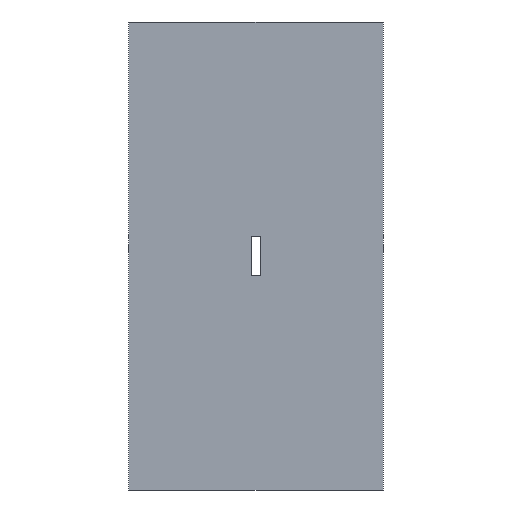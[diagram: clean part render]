
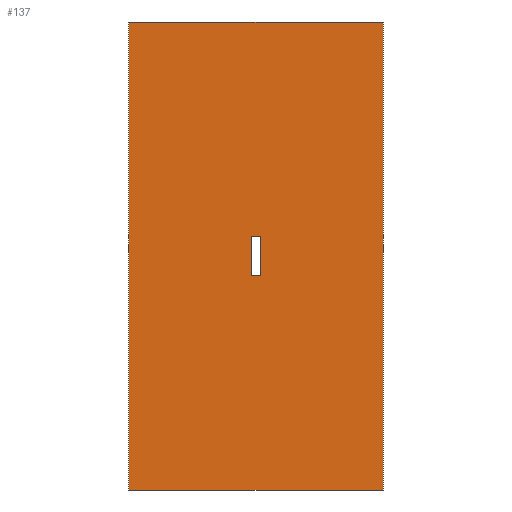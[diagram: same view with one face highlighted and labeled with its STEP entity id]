
A CAD part, front view. The second image highlights one B-rep face of the part: STEP entity #137.
In plain terms, the highlighted planar face has unit normal (0, -1, 0).
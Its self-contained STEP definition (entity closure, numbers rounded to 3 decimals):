
#21 = EDGE_CURVE('',#22,#24,#26,.T.);
#22 = VERTEX_POINT('',#23);
#23 = CARTESIAN_POINT('',(-163.,-6.,0.));
#24 = VERTEX_POINT('',#25);
#25 = CARTESIAN_POINT('',(-163.,-6.,600.));
#26 = SURFACE_CURVE('',#27,(#31,#43),.PCURVE_S1.);
#27 = LINE('',#28,#29);
#28 = CARTESIAN_POINT('',(-163.,-6.,0.));
#29 = VECTOR('',#30,1.);
#30 = DIRECTION('',(0.,0.,1.));
#31 = PCURVE('',#32,#37);
#32 = PLANE('',#33);
#33 = AXIS2_PLACEMENT_3D('',#34,#35,#36);
#34 = CARTESIAN_POINT('',(-163.,-6.,0.));
#35 = DIRECTION('',(1.,0.,0.));
#36 = DIRECTION('',(0.,0.,1.));
#37 = DEFINITIONAL_REPRESENTATION('',(#38),#42);
#38 = LINE('',#39,#40);
#39 = CARTESIAN_POINT('',(0.,0.));
#40 = VECTOR('',#41,1.);
#41 = DIRECTION('',(1.,0.));
#42 = ( GEOMETRIC_REPRESENTATION_CONTEXT(2) 
PARAMETRIC_REPRESENTATION_CONTEXT() REPRESENTATION_CONTEXT('2D SPACE',''
  ) );
#43 = PCURVE('',#44,#49);
#44 = PLANE('',#45);
#45 = AXIS2_PLACEMENT_3D('',#46,#47,#48);
#46 = CARTESIAN_POINT('',(-163.,-6.,0.));
#47 = DIRECTION('',(0.,1.,0.));
#48 = DIRECTION('',(0.,0.,1.));
#49 = DEFINITIONAL_REPRESENTATION('',(#50),#54);
#50 = LINE('',#51,#52);
#51 = CARTESIAN_POINT('',(0.,0.));
#52 = VECTOR('',#53,1.);
#53 = DIRECTION('',(1.,0.));
#54 = ( GEOMETRIC_REPRESENTATION_CONTEXT(2) 
PARAMETRIC_REPRESENTATION_CONTEXT() REPRESENTATION_CONTEXT('2D SPACE',''
  ) );
#72 = PLANE('',#73);
#73 = AXIS2_PLACEMENT_3D('',#74,#75,#76);
#74 = CARTESIAN_POINT('',(-163.,-6.,0.));
#75 = DIRECTION('',(0.,0.,1.));
#76 = DIRECTION('',(1.,0.,0.));
#126 = PLANE('',#127);
#127 = AXIS2_PLACEMENT_3D('',#128,#129,#130);
#128 = CARTESIAN_POINT('',(-163.,-6.,600.));
#129 = DIRECTION('',(0.,0.,1.));
#130 = DIRECTION('',(1.,0.,0.));
#137 = ADVANCED_FACE('',(#138,#213),#44,.F.);
#138 = FACE_BOUND('',#139,.F.);
#139 = EDGE_LOOP('',(#140,#163,#164,#187));
#140 = ORIENTED_EDGE('',*,*,#141,.F.);
#141 = EDGE_CURVE('',#22,#142,#144,.T.);
#142 = VERTEX_POINT('',#143);
#143 = CARTESIAN_POINT('',(163.,-6.,0.));
#144 = SURFACE_CURVE('',#145,(#149,#156),.PCURVE_S1.);
#145 = LINE('',#146,#147);
#146 = CARTESIAN_POINT('',(-163.,-6.,0.));
#147 = VECTOR('',#148,1.);
#148 = DIRECTION('',(1.,0.,0.));
#149 = PCURVE('',#44,#150);
#150 = DEFINITIONAL_REPRESENTATION('',(#151),#155);
#151 = LINE('',#152,#153);
#152 = CARTESIAN_POINT('',(0.,0.));
#153 = VECTOR('',#154,1.);
#154 = DIRECTION('',(0.,1.));
#155 = ( GEOMETRIC_REPRESENTATION_CONTEXT(2) 
PARAMETRIC_REPRESENTATION_CONTEXT() REPRESENTATION_CONTEXT('2D SPACE',''
  ) );
#156 = PCURVE('',#72,#157);
#157 = DEFINITIONAL_REPRESENTATION('',(#158),#162);
#158 = LINE('',#159,#160);
#159 = CARTESIAN_POINT('',(0.,0.));
#160 = VECTOR('',#161,1.);
#161 = DIRECTION('',(1.,0.));
#162 = ( GEOMETRIC_REPRESENTATION_CONTEXT(2) 
PARAMETRIC_REPRESENTATION_CONTEXT() REPRESENTATION_CONTEXT('2D SPACE',''
  ) );
#163 = ORIENTED_EDGE('',*,*,#21,.T.);
#164 = ORIENTED_EDGE('',*,*,#165,.T.);
#165 = EDGE_CURVE('',#24,#166,#168,.T.);
#166 = VERTEX_POINT('',#167);
#167 = CARTESIAN_POINT('',(163.,-6.,600.));
#168 = SURFACE_CURVE('',#169,(#173,#180),.PCURVE_S1.);
#169 = LINE('',#170,#171);
#170 = CARTESIAN_POINT('',(-163.,-6.,600.));
#171 = VECTOR('',#172,1.);
#172 = DIRECTION('',(1.,0.,0.));
#173 = PCURVE('',#44,#174);
#174 = DEFINITIONAL_REPRESENTATION('',(#175),#179);
#175 = LINE('',#176,#177);
#176 = CARTESIAN_POINT('',(600.,0.));
#177 = VECTOR('',#178,1.);
#178 = DIRECTION('',(0.,1.));
#179 = ( GEOMETRIC_REPRESENTATION_CONTEXT(2) 
PARAMETRIC_REPRESENTATION_CONTEXT() REPRESENTATION_CONTEXT('2D SPACE',''
  ) );
#180 = PCURVE('',#126,#181);
#181 = DEFINITIONAL_REPRESENTATION('',(#182),#186);
#182 = LINE('',#183,#184);
#183 = CARTESIAN_POINT('',(0.,0.));
#184 = VECTOR('',#185,1.);
#185 = DIRECTION('',(1.,0.));
#186 = ( GEOMETRIC_REPRESENTATION_CONTEXT(2) 
PARAMETRIC_REPRESENTATION_CONTEXT() REPRESENTATION_CONTEXT('2D SPACE',''
  ) );
#187 = ORIENTED_EDGE('',*,*,#188,.F.);
#188 = EDGE_CURVE('',#142,#166,#189,.T.);
#189 = SURFACE_CURVE('',#190,(#194,#201),.PCURVE_S1.);
#190 = LINE('',#191,#192);
#191 = CARTESIAN_POINT('',(163.,-6.,0.));
#192 = VECTOR('',#193,1.);
#193 = DIRECTION('',(0.,0.,1.));
#194 = PCURVE('',#44,#195);
#195 = DEFINITIONAL_REPRESENTATION('',(#196),#200);
#196 = LINE('',#197,#198);
#197 = CARTESIAN_POINT('',(0.,326.));
#198 = VECTOR('',#199,1.);
#199 = DIRECTION('',(1.,0.));
#200 = ( GEOMETRIC_REPRESENTATION_CONTEXT(2) 
PARAMETRIC_REPRESENTATION_CONTEXT() REPRESENTATION_CONTEXT('2D SPACE',''
  ) );
#201 = PCURVE('',#202,#207);
#202 = PLANE('',#203);
#203 = AXIS2_PLACEMENT_3D('',#204,#205,#206);
#204 = CARTESIAN_POINT('',(163.,-6.,0.));
#205 = DIRECTION('',(1.,0.,0.));
#206 = DIRECTION('',(0.,0.,1.));
#207 = DEFINITIONAL_REPRESENTATION('',(#208),#212);
#208 = LINE('',#209,#210);
#209 = CARTESIAN_POINT('',(0.,0.));
#210 = VECTOR('',#211,1.);
#211 = DIRECTION('',(1.,0.));
#212 = ( GEOMETRIC_REPRESENTATION_CONTEXT(2) 
PARAMETRIC_REPRESENTATION_CONTEXT() REPRESENTATION_CONTEXT('2D SPACE',''
  ) );
#213 = FACE_BOUND('',#214,.F.);
#214 = EDGE_LOOP('',(#215,#243,#269,#295));
#215 = ORIENTED_EDGE('',*,*,#216,.F.);
#216 = EDGE_CURVE('',#217,#219,#221,.T.);
#217 = VERTEX_POINT('',#218);
#218 = CARTESIAN_POINT('',(-6.,-6.,325.));
#219 = VERTEX_POINT('',#220);
#220 = CARTESIAN_POINT('',(6.,-6.,325.));
#221 = SURFACE_CURVE('',#222,(#226,#232),.PCURVE_S1.);
#222 = LINE('',#223,#224);
#223 = CARTESIAN_POINT('',(-84.5,-6.,325.));
#224 = VECTOR('',#225,1.);
#225 = DIRECTION('',(1.,0.,0.));
#226 = PCURVE('',#44,#227);
#227 = DEFINITIONAL_REPRESENTATION('',(#228),#231);
#228 = B_SPLINE_CURVE_WITH_KNOTS('',1,(#229,#230),.UNSPECIFIED.,.F.,.F.,
  (2,2),(78.5,90.5),.PIECEWISE_BEZIER_KNOTS.);
#229 = CARTESIAN_POINT('',(325.,157.));
#230 = CARTESIAN_POINT('',(325.,169.));
#231 = ( GEOMETRIC_REPRESENTATION_CONTEXT(2) 
PARAMETRIC_REPRESENTATION_CONTEXT() REPRESENTATION_CONTEXT('2D SPACE',''
  ) );
#232 = PCURVE('',#233,#238);
#233 = PLANE('',#234);
#234 = AXIS2_PLACEMENT_3D('',#235,#236,#237);
#235 = CARTESIAN_POINT('',(-6.,-7.,325.));
#236 = DIRECTION('',(0.,0.,1.));
#237 = DIRECTION('',(1.,0.,0.));
#238 = DEFINITIONAL_REPRESENTATION('',(#239),#242);
#239 = B_SPLINE_CURVE_WITH_KNOTS('',1,(#240,#241),.UNSPECIFIED.,.F.,.F.,
  (2,2),(78.5,90.5),.PIECEWISE_BEZIER_KNOTS.);
#240 = CARTESIAN_POINT('',(0.,1.));
#241 = CARTESIAN_POINT('',(12.,1.));
#242 = ( GEOMETRIC_REPRESENTATION_CONTEXT(2) 
PARAMETRIC_REPRESENTATION_CONTEXT() REPRESENTATION_CONTEXT('2D SPACE',''
  ) );
#243 = ORIENTED_EDGE('',*,*,#244,.T.);
#244 = EDGE_CURVE('',#217,#245,#247,.T.);
#245 = VERTEX_POINT('',#246);
#246 = CARTESIAN_POINT('',(-6.,-6.,275.));
#247 = SURFACE_CURVE('',#248,(#252,#258),.PCURVE_S1.);
#248 = LINE('',#249,#250);
#249 = CARTESIAN_POINT('',(-6.,-6.,137.5));
#250 = VECTOR('',#251,1.);
#251 = DIRECTION('',(0.,0.,-1.));
#252 = PCURVE('',#44,#253);
#253 = DEFINITIONAL_REPRESENTATION('',(#254),#257);
#254 = B_SPLINE_CURVE_WITH_KNOTS('',1,(#255,#256),.UNSPECIFIED.,.F.,.F.,
  (2,2),(-187.5,-137.5),.PIECEWISE_BEZIER_KNOTS.);
#255 = CARTESIAN_POINT('',(325.,157.));
#256 = CARTESIAN_POINT('',(275.,157.));
#257 = ( GEOMETRIC_REPRESENTATION_CONTEXT(2) 
PARAMETRIC_REPRESENTATION_CONTEXT() REPRESENTATION_CONTEXT('2D SPACE',''
  ) );
#258 = PCURVE('',#259,#264);
#259 = PLANE('',#260);
#260 = AXIS2_PLACEMENT_3D('',#261,#262,#263);
#261 = CARTESIAN_POINT('',(-6.,-7.,275.));
#262 = DIRECTION('',(1.,0.,0.));
#263 = DIRECTION('',(0.,0.,1.));
#264 = DEFINITIONAL_REPRESENTATION('',(#265),#268);
#265 = B_SPLINE_CURVE_WITH_KNOTS('',1,(#266,#267),.UNSPECIFIED.,.F.,.F.,
  (2,2),(-187.5,-137.5),.PIECEWISE_BEZIER_KNOTS.);
#266 = CARTESIAN_POINT('',(50.,-1.));
#267 = CARTESIAN_POINT('',(0.,-1.));
#268 = ( GEOMETRIC_REPRESENTATION_CONTEXT(2) 
PARAMETRIC_REPRESENTATION_CONTEXT() REPRESENTATION_CONTEXT('2D SPACE',''
  ) );
#269 = ORIENTED_EDGE('',*,*,#270,.T.);
#270 = EDGE_CURVE('',#245,#271,#273,.T.);
#271 = VERTEX_POINT('',#272);
#272 = CARTESIAN_POINT('',(6.,-6.,275.));
#273 = SURFACE_CURVE('',#274,(#278,#284),.PCURVE_S1.);
#274 = LINE('',#275,#276);
#275 = CARTESIAN_POINT('',(-84.5,-6.,275.));
#276 = VECTOR('',#277,1.);
#277 = DIRECTION('',(1.,0.,0.));
#278 = PCURVE('',#44,#279);
#279 = DEFINITIONAL_REPRESENTATION('',(#280),#283);
#280 = B_SPLINE_CURVE_WITH_KNOTS('',1,(#281,#282),.UNSPECIFIED.,.F.,.F.,
  (2,2),(78.5,90.5),.PIECEWISE_BEZIER_KNOTS.);
#281 = CARTESIAN_POINT('',(275.,157.));
#282 = CARTESIAN_POINT('',(275.,169.));
#283 = ( GEOMETRIC_REPRESENTATION_CONTEXT(2) 
PARAMETRIC_REPRESENTATION_CONTEXT() REPRESENTATION_CONTEXT('2D SPACE',''
  ) );
#284 = PCURVE('',#285,#290);
#285 = PLANE('',#286);
#286 = AXIS2_PLACEMENT_3D('',#287,#288,#289);
#287 = CARTESIAN_POINT('',(-6.,-7.,275.));
#288 = DIRECTION('',(0.,0.,1.));
#289 = DIRECTION('',(1.,0.,0.));
#290 = DEFINITIONAL_REPRESENTATION('',(#291),#294);
#291 = B_SPLINE_CURVE_WITH_KNOTS('',1,(#292,#293),.UNSPECIFIED.,.F.,.F.,
  (2,2),(78.5,90.5),.PIECEWISE_BEZIER_KNOTS.);
#292 = CARTESIAN_POINT('',(0.,1.));
#293 = CARTESIAN_POINT('',(12.,1.));
#294 = ( GEOMETRIC_REPRESENTATION_CONTEXT(2) 
PARAMETRIC_REPRESENTATION_CONTEXT() REPRESENTATION_CONTEXT('2D SPACE',''
  ) );
#295 = ORIENTED_EDGE('',*,*,#296,.F.);
#296 = EDGE_CURVE('',#219,#271,#297,.T.);
#297 = SURFACE_CURVE('',#298,(#302,#308),.PCURVE_S1.);
#298 = LINE('',#299,#300);
#299 = CARTESIAN_POINT('',(6.,-6.,137.5));
#300 = VECTOR('',#301,1.);
#301 = DIRECTION('',(0.,0.,-1.));
#302 = PCURVE('',#44,#303);
#303 = DEFINITIONAL_REPRESENTATION('',(#304),#307);
#304 = B_SPLINE_CURVE_WITH_KNOTS('',1,(#305,#306),.UNSPECIFIED.,.F.,.F.,
  (2,2),(-187.5,-137.5),.PIECEWISE_BEZIER_KNOTS.);
#305 = CARTESIAN_POINT('',(325.,169.));
#306 = CARTESIAN_POINT('',(275.,169.));
#307 = ( GEOMETRIC_REPRESENTATION_CONTEXT(2) 
PARAMETRIC_REPRESENTATION_CONTEXT() REPRESENTATION_CONTEXT('2D SPACE',''
  ) );
#308 = PCURVE('',#309,#314);
#309 = PLANE('',#310);
#310 = AXIS2_PLACEMENT_3D('',#311,#312,#313);
#311 = CARTESIAN_POINT('',(6.,-7.,275.));
#312 = DIRECTION('',(1.,0.,0.));
#313 = DIRECTION('',(0.,0.,1.));
#314 = DEFINITIONAL_REPRESENTATION('',(#315),#318);
#315 = B_SPLINE_CURVE_WITH_KNOTS('',1,(#316,#317),.UNSPECIFIED.,.F.,.F.,
  (2,2),(-187.5,-137.5),.PIECEWISE_BEZIER_KNOTS.);
#316 = CARTESIAN_POINT('',(50.,-1.));
#317 = CARTESIAN_POINT('',(0.,-1.));
#318 = ( GEOMETRIC_REPRESENTATION_CONTEXT(2) 
PARAMETRIC_REPRESENTATION_CONTEXT() REPRESENTATION_CONTEXT('2D SPACE',''
  ) );
